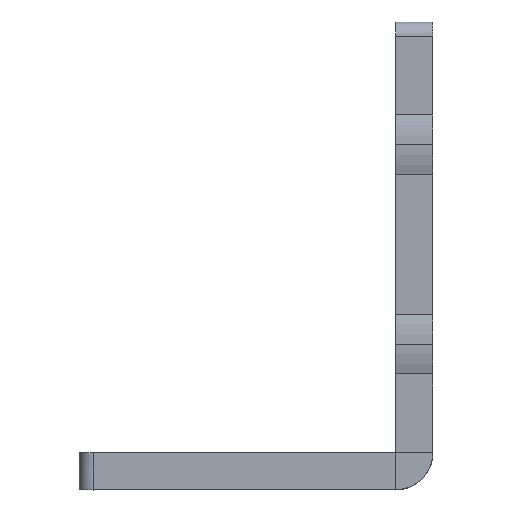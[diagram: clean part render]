
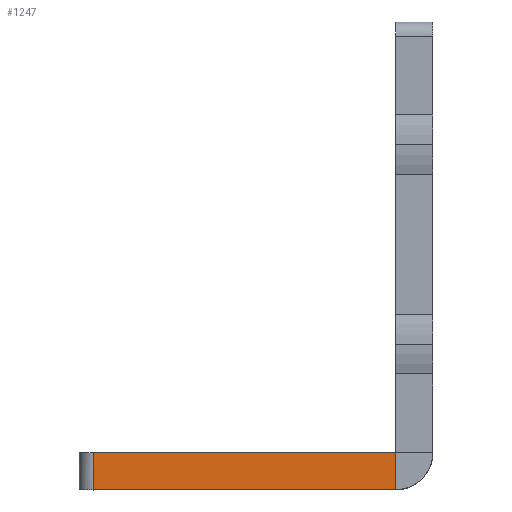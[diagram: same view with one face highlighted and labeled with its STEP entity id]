
A CAD part, top view. The second image highlights one B-rep face of the part: STEP entity #1247.
In plain terms, the highlighted free-form (B-spline) face has degree [1, 1] with [2, 2] control points.
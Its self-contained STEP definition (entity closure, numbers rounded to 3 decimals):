
#129 = CARTESIAN_POINT ( 'NONE',  ( 0., 0., 12. ) ) ;
#157 = CARTESIAN_POINT ( 'NONE',  ( 0., 0., 12. ) ) ;
#234 = CARTESIAN_POINT ( 'NONE',  ( 0., -2.6, 12. ) ) ;
#264 = EDGE_LOOP ( 'NONE', ( #643, #749, #1126, #1374 ) ) ;
#332 = CARTESIAN_POINT ( 'NONE',  ( -21.2, -2.6, 12. ) ) ;
#351 = CARTESIAN_POINT ( 'NONE',  ( -21.2, -2.6, 12. ) ) ;
#362 = CARTESIAN_POINT ( 'NONE',  ( 0., 0., 12. ) ) ;
#423 = B_SPLINE_CURVE_WITH_KNOTS ( 'NONE', 1,
 ( #157, #642 ),
 .UNSPECIFIED., .F., .F.,
 ( 2, 2 ),
 ( 0., 1. ),
 .UNSPECIFIED. ) ;
#424 = EDGE_CURVE ( 'NONE', #434, #890, #423, .T. ) ;
#434 = VERTEX_POINT ( 'NONE', #697 ) ;
#459 = CARTESIAN_POINT ( 'NONE',  ( 0., -2.6, 12. ) ) ;
#495 = EDGE_CURVE ( 'NONE', #1314, #890, #548, .T. ) ;
#548 = B_SPLINE_CURVE_WITH_KNOTS ( 'NONE', 1,
 ( #916, #1275 ),
 .UNSPECIFIED., .F., .F.,
 ( 2, 2 ),
 ( 0., 1. ),
 .UNSPECIFIED. ) ;
#604 = CARTESIAN_POINT ( 'NONE',  ( -21.2, 0., 12. ) ) ;
#642 = CARTESIAN_POINT ( 'NONE',  ( 0., -2.6, 12. ) ) ;
#643 = ORIENTED_EDGE ( 'NONE', *, *, #495, .T. ) ;
#697 = CARTESIAN_POINT ( 'NONE',  ( 0., 0., 12. ) ) ;
#749 = ORIENTED_EDGE ( 'NONE', *, *, #424, .F. ) ;
#799 = VERTEX_POINT ( 'NONE', #892 ) ;
#812 = B_SPLINE_SURFACE_WITH_KNOTS ( 'NONE', 1, 1, ( 
 ( #604, #362 ),
 ( #351, #234 ) ),
 .UNSPECIFIED., .F., .F., .F.,
 ( 2, 2 ),
 ( 2, 2 ),
 ( 0., 1. ),
 ( 0., 1. ),
 .UNSPECIFIED. ) ;
#890 = VERTEX_POINT ( 'NONE', #459 ) ;
#892 = CARTESIAN_POINT ( 'NONE',  ( -21.2, 0., 12. ) ) ;
#915 = CARTESIAN_POINT ( 'NONE',  ( -21.2, 0., 12. ) ) ;
#916 = CARTESIAN_POINT ( 'NONE',  ( -21.2, -2.6, 12. ) ) ;
#932 = EDGE_CURVE ( 'NONE', #799, #1314, #1402, .T. ) ;
#951 = CARTESIAN_POINT ( 'NONE',  ( -21.2, -2.6, 12. ) ) ;
#1093 = EDGE_CURVE ( 'NONE', #434, #799, #1256, .T. ) ;
#1126 = ORIENTED_EDGE ( 'NONE', *, *, #1093, .T. ) ;
#1136 = FACE_OUTER_BOUND ( 'NONE', #264, .T. ) ;
#1197 = CARTESIAN_POINT ( 'NONE',  ( -21.2, 0., 12. ) ) ;
#1247 = ADVANCED_FACE ( 'NONE', ( #1136 ), #812, .T. ) ;
#1256 = B_SPLINE_CURVE_WITH_KNOTS ( 'NONE', 1,
 ( #129, #1197 ),
 .UNSPECIFIED., .F., .F.,
 ( 2, 2 ),
 ( 0., 1. ),
 .UNSPECIFIED. ) ;
#1275 = CARTESIAN_POINT ( 'NONE',  ( 0., -2.6, 12. ) ) ;
#1314 = VERTEX_POINT ( 'NONE', #951 ) ;
#1374 = ORIENTED_EDGE ( 'NONE', *, *, #932, .T. ) ;
#1402 = B_SPLINE_CURVE_WITH_KNOTS ( 'NONE', 1,
 ( #915, #332 ),
 .UNSPECIFIED., .F., .F.,
 ( 2, 2 ),
 ( 0., 1. ),
 .UNSPECIFIED. ) ;
